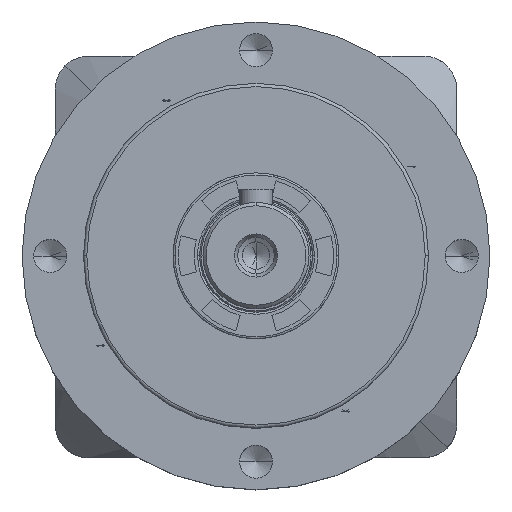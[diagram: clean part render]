
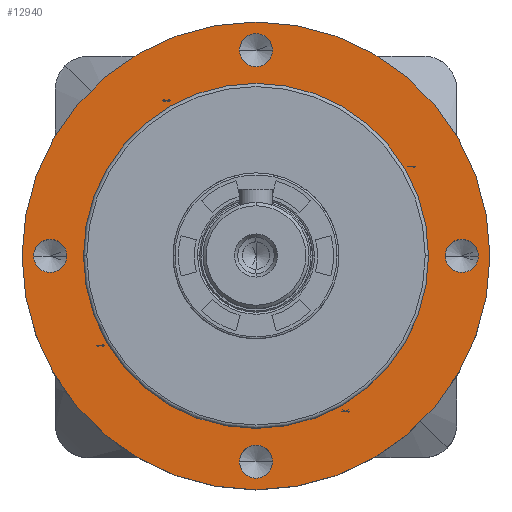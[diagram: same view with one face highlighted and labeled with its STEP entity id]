
A CAD part, top view. The second image highlights one B-rep face of the part: STEP entity #12940.
In plain terms, the highlighted planar face has unit normal (0, 0, 1).
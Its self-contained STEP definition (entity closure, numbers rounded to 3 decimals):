
#440 = AXIS2_PLACEMENT_3D ( 'NONE', #25923, #29356, #20606 ) ;
#637 = CIRCLE ( 'NONE', #31983, 2.5 ) ;
#744 = ORIENTED_EDGE ( 'NONE', *, *, #14170, .F. ) ;
#788 = AXIS2_PLACEMENT_3D ( 'NONE', #8747, #28562, #26382 ) ;
#1345 = AXIS2_PLACEMENT_3D ( 'NONE', #15400, #22765, #7932 ) ;
#1524 = DIRECTION ( 'NONE',  ( 0., 0., 1. ) ) ;
#1977 = DIRECTION ( 'NONE',  ( 1., 0., 0. ) ) ;
#2023 = ORIENTED_EDGE ( 'NONE', *, *, #6110, .T. ) ;
#2102 = CARTESIAN_POINT ( 'NONE',  ( 26., 0., 14.9 ) ) ;
#3073 = ORIENTED_EDGE ( 'NONE', *, *, #8783, .F. ) ;
#3435 = VERTEX_POINT ( 'NONE', #23150 ) ;
#3484 = CIRCLE ( 'NONE', #17601, 35.25 ) ;
#4296 = DIRECTION ( 'NONE',  ( 0., 0., 1. ) ) ;
#4498 = AXIS2_PLACEMENT_3D ( 'NONE', #30401, #13277, #30626 ) ;
#4663 = EDGE_CURVE ( 'NONE', #30803, #12635, #26085, .T. ) ;
#4895 = ORIENTED_EDGE ( 'NONE', *, *, #27195, .F. ) ;
#5248 = CARTESIAN_POINT ( 'NONE',  ( 31., 0., 14.9 ) ) ;
#5830 = FACE_BOUND ( 'NONE', #8483, .T. ) ;
#6055 = VERTEX_POINT ( 'NONE', #15649 ) ;
#6110 = EDGE_CURVE ( 'NONE', #6513, #9493, #20693, .T. ) ;
#6357 = DIRECTION ( 'NONE',  ( 0., 0., 1. ) ) ;
#6359 = CARTESIAN_POINT ( 'NONE',  ( 33.5, 0., 14.9 ) ) ;
#6513 = VERTEX_POINT ( 'NONE', #16707 ) ;
#6566 = CARTESIAN_POINT ( 'NONE',  ( -35.25, 0., 14.9 ) ) ;
#6820 = CIRCLE ( 'NONE', #440, 26. ) ;
#7932 = DIRECTION ( 'NONE',  ( 1., 0., 0. ) ) ;
#8321 = CARTESIAN_POINT ( 'NONE',  ( 28.5, 0., 14.9 ) ) ;
#8383 = VERTEX_POINT ( 'NONE', #19830 ) ;
#8483 = EDGE_LOOP ( 'NONE', ( #23361, #3073 ) ) ;
#8747 = CARTESIAN_POINT ( 'NONE',  ( 0., 0., 14.9 ) ) ;
#8777 = ORIENTED_EDGE ( 'NONE', *, *, #17627, .F. ) ;
#8783 = EDGE_CURVE ( 'NONE', #6055, #25338, #17900, .T. ) ;
#8939 = AXIS2_PLACEMENT_3D ( 'NONE', #16352, #21330, #18841 ) ;
#9493 = VERTEX_POINT ( 'NONE', #6566 ) ;
#10265 = CIRCLE ( 'NONE', #24075, 2.5 ) ;
#10592 = CARTESIAN_POINT ( 'NONE',  ( -26., 0., 14.9 ) ) ;
#10876 = DIRECTION ( 'NONE',  ( 1., 0., 0. ) ) ;
#10877 = FACE_OUTER_BOUND ( 'NONE', #15964, .T. ) ;
#12383 = AXIS2_PLACEMENT_3D ( 'NONE', #5248, #22783, #20398 ) ;
#12635 = VERTEX_POINT ( 'NONE', #6359 ) ;
#12716 = EDGE_LOOP ( 'NONE', ( #744, #4895 ) ) ;
#12940 = ADVANCED_FACE ( 'NONE', ( #5830, #23624, #24014, #25179, #23254, #10877 ), #26916, .T. ) ;
#13277 = DIRECTION ( 'NONE',  ( 0., 0., 1. ) ) ;
#13413 = EDGE_LOOP ( 'NONE', ( #8777, #25349 ) ) ;
#13556 = EDGE_CURVE ( 'NONE', #16189, #24138, #10265, .T. ) ;
#13595 = EDGE_CURVE ( 'NONE', #25338, #6055, #14903, .T. ) ;
#14126 = AXIS2_PLACEMENT_3D ( 'NONE', #28365, #30882, #31191 ) ;
#14170 = EDGE_CURVE ( 'NONE', #8383, #3435, #20308, .T. ) ;
#14197 = DIRECTION ( 'NONE',  ( 0., 0., 1. ) ) ;
#14903 = CIRCLE ( 'NONE', #14126, 2.5 ) ;
#15400 = CARTESIAN_POINT ( 'NONE',  ( 0., 31., 14.9 ) ) ;
#15430 = EDGE_CURVE ( 'NONE', #9493, #6513, #3484, .T. ) ;
#15649 = CARTESIAN_POINT ( 'NONE',  ( -2.5, -31., 14.9 ) ) ;
#15964 = EDGE_LOOP ( 'NONE', ( #2023, #21427 ) ) ;
#16189 = VERTEX_POINT ( 'NONE', #17406 ) ;
#16273 = ORIENTED_EDGE ( 'NONE', *, *, #21224, .F. ) ;
#16352 = CARTESIAN_POINT ( 'NONE',  ( 0., -31., 14.9 ) ) ;
#16576 = ORIENTED_EDGE ( 'NONE', *, *, #13556, .F. ) ;
#16707 = CARTESIAN_POINT ( 'NONE',  ( 35.25, 0., 14.9 ) ) ;
#17406 = CARTESIAN_POINT ( 'NONE',  ( -33.5, 0., 14.9 ) ) ;
#17601 = AXIS2_PLACEMENT_3D ( 'NONE', #28776, #6357, #21197 ) ;
#17627 = EDGE_CURVE ( 'NONE', #12635, #30803, #27462, .T. ) ;
#17900 = CIRCLE ( 'NONE', #8939, 2.5 ) ;
#18214 = CARTESIAN_POINT ( 'NONE',  ( 31., 0., 14.9 ) ) ;
#18370 = VERTEX_POINT ( 'NONE', #2102 ) ;
#18841 = DIRECTION ( 'NONE',  ( 1., 0., 0. ) ) ;
#19822 = CARTESIAN_POINT ( 'NONE',  ( 2.5, -31., 14.9 ) ) ;
#19830 = CARTESIAN_POINT ( 'NONE',  ( 2.5, 31., 14.9 ) ) ;
#20290 = AXIS2_PLACEMENT_3D ( 'NONE', #18214, #23622, #10876 ) ;
#20308 = CIRCLE ( 'NONE', #1345, 2.5 ) ;
#20398 = DIRECTION ( 'NONE',  ( 1., 0., 0. ) ) ;
#20606 = DIRECTION ( 'NONE',  ( 1., 0., 0. ) ) ;
#20693 = CIRCLE ( 'NONE', #4498, 35.25 ) ;
#21171 = EDGE_CURVE ( 'NONE', #28194, #18370, #6820, .T. ) ;
#21197 = DIRECTION ( 'NONE',  ( 1., 0., 0. ) ) ;
#21224 = EDGE_CURVE ( 'NONE', #24138, #16189, #637, .T. ) ;
#21330 = DIRECTION ( 'NONE',  ( 0., 0., 1. ) ) ;
#21345 = CIRCLE ( 'NONE', #788, 26. ) ;
#21427 = ORIENTED_EDGE ( 'NONE', *, *, #15430, .T. ) ;
#21609 = DIRECTION ( 'NONE',  ( 1., 0., 0. ) ) ;
#22029 = CARTESIAN_POINT ( 'NONE',  ( 0., 0., 14.9 ) ) ;
#22423 = CARTESIAN_POINT ( 'NONE',  ( -28.5, 0., 14.9 ) ) ;
#22765 = DIRECTION ( 'NONE',  ( 0., 0., 1. ) ) ;
#22773 = AXIS2_PLACEMENT_3D ( 'NONE', #23243, #23144, #30736 ) ;
#22783 = DIRECTION ( 'NONE',  ( 0., 0., 1. ) ) ;
#23144 = DIRECTION ( 'NONE',  ( 0., 0., 1. ) ) ;
#23150 = CARTESIAN_POINT ( 'NONE',  ( -2.5, 31., 14.9 ) ) ;
#23243 = CARTESIAN_POINT ( 'NONE',  ( 0., 31., 14.9 ) ) ;
#23254 = FACE_BOUND ( 'NONE', #26445, .T. ) ;
#23361 = ORIENTED_EDGE ( 'NONE', *, *, #13595, .F. ) ;
#23365 = CARTESIAN_POINT ( 'NONE',  ( -31., 0., 14.9 ) ) ;
#23622 = DIRECTION ( 'NONE',  ( 0., 0., 1. ) ) ;
#23624 = FACE_BOUND ( 'NONE', #27376, .T. ) ;
#24014 = FACE_BOUND ( 'NONE', #13413, .T. ) ;
#24075 = AXIS2_PLACEMENT_3D ( 'NONE', #23365, #1524, #26202 ) ;
#24138 = VERTEX_POINT ( 'NONE', #22423 ) ;
#24644 = ORIENTED_EDGE ( 'NONE', *, *, #21171, .F. ) ;
#25179 = FACE_BOUND ( 'NONE', #12716, .T. ) ;
#25338 = VERTEX_POINT ( 'NONE', #19822 ) ;
#25349 = ORIENTED_EDGE ( 'NONE', *, *, #4663, .F. ) ;
#25923 = CARTESIAN_POINT ( 'NONE',  ( 0., 0., 14.9 ) ) ;
#26085 = CIRCLE ( 'NONE', #12383, 2.5 ) ;
#26202 = DIRECTION ( 'NONE',  ( 1., 0., 0. ) ) ;
#26382 = DIRECTION ( 'NONE',  ( 1., 0., 0. ) ) ;
#26445 = EDGE_LOOP ( 'NONE', ( #24644, #30378 ) ) ;
#26916 = PLANE ( 'NONE',  #30137 ) ;
#27195 = EDGE_CURVE ( 'NONE', #3435, #8383, #29115, .T. ) ;
#27376 = EDGE_LOOP ( 'NONE', ( #16273, #16576 ) ) ;
#27396 = EDGE_CURVE ( 'NONE', #18370, #28194, #21345, .T. ) ;
#27462 = CIRCLE ( 'NONE', #20290, 2.5 ) ;
#28194 = VERTEX_POINT ( 'NONE', #10592 ) ;
#28365 = CARTESIAN_POINT ( 'NONE',  ( 0., -31., 14.9 ) ) ;
#28562 = DIRECTION ( 'NONE',  ( 0., 0., 1. ) ) ;
#28776 = CARTESIAN_POINT ( 'NONE',  ( 0., 0., 14.9 ) ) ;
#29115 = CIRCLE ( 'NONE', #22773, 2.5 ) ;
#29245 = CARTESIAN_POINT ( 'NONE',  ( -31., 0., 14.9 ) ) ;
#29356 = DIRECTION ( 'NONE',  ( 0., 0., 1. ) ) ;
#30137 = AXIS2_PLACEMENT_3D ( 'NONE', #22029, #4296, #21609 ) ;
#30378 = ORIENTED_EDGE ( 'NONE', *, *, #27396, .F. ) ;
#30401 = CARTESIAN_POINT ( 'NONE',  ( 0., 0., 14.9 ) ) ;
#30626 = DIRECTION ( 'NONE',  ( 1., 0., 0. ) ) ;
#30736 = DIRECTION ( 'NONE',  ( 1., 0., 0. ) ) ;
#30803 = VERTEX_POINT ( 'NONE', #8321 ) ;
#30882 = DIRECTION ( 'NONE',  ( 0., 0., 1. ) ) ;
#31191 = DIRECTION ( 'NONE',  ( 1., 0., 0. ) ) ;
#31983 = AXIS2_PLACEMENT_3D ( 'NONE', #29245, #14197, #1977 ) ;
